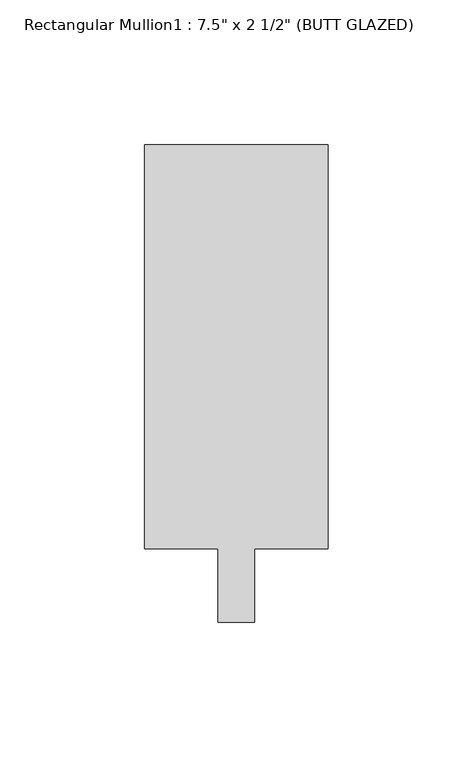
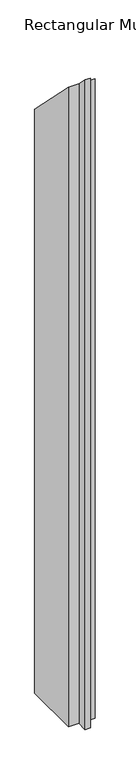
"""IFC4 building model written with IfcOpenShell, lengths in millimetres: member geometry."""

from ifc_helpers import new_model, si_unit, origin, place, context, project, spatial, faceted_brep, source, transform, mapped, element, save


def member_414e721c(model_context):
    return source(origin(), model_context, "Body", "Brep", [
        faceted_brep([(0.0, 165.1, -1639.1033425), (0.0, 25.4, -1639.1033425), (-25.4, 25.4, -1639.1033425), (-25.4, 0.0, -1639.1033425), (-38.1, 0.0, -1639.1033425), (-38.1, 25.4, -1639.1033425), (-63.5, 25.4, -1639.1033425), (-63.5, 165.1, -1639.1033425), (-63.5, 165.1, -165.1), (0.0, 165.1, -165.1), (-63.5, 25.4, -25.4), (-38.1, 25.4, -25.4), (-38.1, 0.0, 0.0), (-25.4, 0.0, 0.0), (-25.4, 25.4, -25.4), (0.0, 25.4, -25.4)], [[[0, 1, 2, 3, 4, 5, 6, 7]], [[8, 9, 0, 7]], [[10, 8, 7, 6]], [[11, 10, 6, 5]], [[12, 11, 5, 4]], [[13, 12, 4, 3]], [[14, 13, 3, 2]], [[15, 14, 2, 1]], [[9, 15, 1, 0]], [[9, 8, 10, 11, 12, 13, 14, 15]]]),
    ])


if __name__ == "__main__":
    model = new_model("IFC4")
    model_context = context("Model", 3, world=origin())
    ifc_project = project(units=[si_unit("LENGTHUNIT", "METRE", prefix="MILLI")], contexts=[model_context])
    site = spatial("IfcSite", under=ifc_project)
    building = spatial("IfcBuilding", under=site)
    placement = place(None, origin())
    member_shape = member_414e721c(model_context)
    element("IfcMember", 1, ObjectType="Rectangular Mullion1 : 7.5\" x 2 1/2\" (BUTT GLAZED)", at=placement, inside=building, context=model_context, shape_type="MappedRepresentation", body=[
        mapped(member_shape, transform((0.0, 0.0, 0.0), x_axis=(1.0, 0.0, 0.0), y_axis=(0.0, 1.0, 0.0), z_axis=(0.0, 0.0, 1.0))),
    ])
    save(model, "model.ifc")
